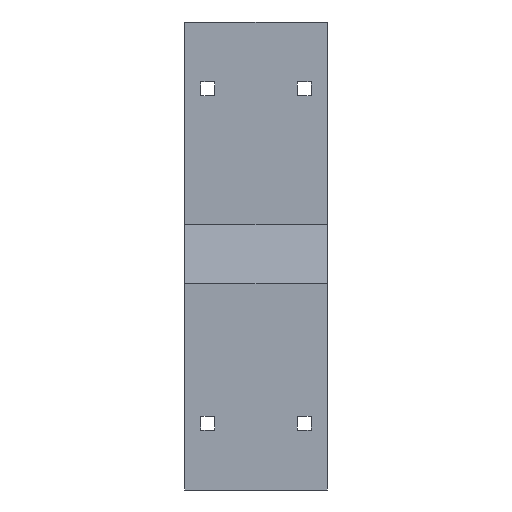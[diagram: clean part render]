
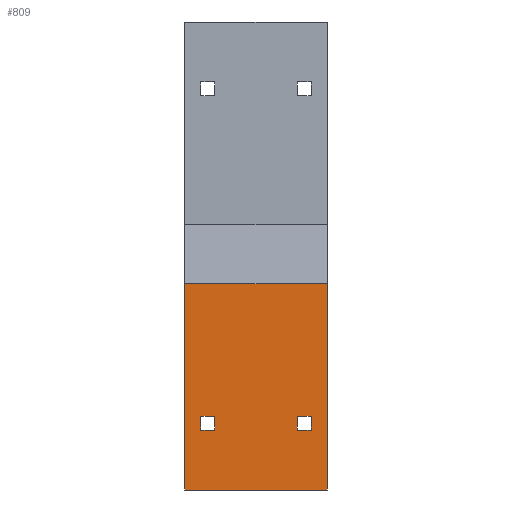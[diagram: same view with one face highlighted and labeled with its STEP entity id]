
A CAD part, left-side view. The second image highlights one B-rep face of the part: STEP entity #809.
In plain terms, the highlighted planar face has unit normal (-1, 0, 0).
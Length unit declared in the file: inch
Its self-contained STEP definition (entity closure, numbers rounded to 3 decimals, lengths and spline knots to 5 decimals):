
#65=DIRECTION('',(0.,0.,-1.));
#66=VECTOR('',#65,6.05196);
#67=CARTESIAN_POINT('',(-3.09,4.175,-7.68009));
#68=LINE('',#67,#66);
#113=DIRECTION('',(0.,1.,0.));
#114=VECTOR('',#113,4.175);
#115=CARTESIAN_POINT('',(-3.09,0.,-13.73205));
#116=LINE('',#115,#114);
#137=DIRECTION('',(0.,1.,0.));
#138=VECTOR('',#137,4.175);
#139=CARTESIAN_POINT('',(-3.09,0.,-7.68009));
#140=LINE('',#139,#138);
#141=DIRECTION('',(0.,0.,-1.));
#142=VECTOR('',#141,6.05196);
#143=CARTESIAN_POINT('',(-3.09,0.,-7.68009));
#144=LINE('',#143,#142);
#145=DIRECTION('',(0.,-1.,0.));
#146=VECTOR('',#145,0.41);
#147=CARTESIAN_POINT('',(-3.09,0.875,-11.97705));
#148=LINE('',#147,#146);
#149=DIRECTION('',(0.,0.,1.));
#150=VECTOR('',#149,0.41);
#151=CARTESIAN_POINT('',(-3.09,0.465,-11.97705));
#152=LINE('',#151,#150);
#153=DIRECTION('',(0.,1.,0.));
#154=VECTOR('',#153,0.41);
#155=CARTESIAN_POINT('',(-3.09,0.465,-11.56705));
#156=LINE('',#155,#154);
#157=DIRECTION('',(0.,0.,-1.));
#158=VECTOR('',#157,0.41);
#159=CARTESIAN_POINT('',(-3.09,0.875,-11.56705));
#160=LINE('',#159,#158);
#161=DIRECTION('',(0.,0.,1.));
#162=VECTOR('',#161,0.41);
#163=CARTESIAN_POINT('',(-3.09,3.3,-11.97705));
#164=LINE('',#163,#162);
#165=DIRECTION('',(0.,1.,0.));
#166=VECTOR('',#165,0.41);
#167=CARTESIAN_POINT('',(-3.09,3.3,-11.56705));
#168=LINE('',#167,#166);
#169=DIRECTION('',(0.,0.,-1.));
#170=VECTOR('',#169,0.41);
#171=CARTESIAN_POINT('',(-3.09,3.71,-11.56705));
#172=LINE('',#171,#170);
#173=DIRECTION('',(0.,-1.,0.));
#174=VECTOR('',#173,0.41);
#175=CARTESIAN_POINT('',(-3.09,3.71,-11.97705));
#176=LINE('',#175,#174);
#469=CARTESIAN_POINT('',(-3.09,0.,-7.68009));
#470=CARTESIAN_POINT('',(-3.09,4.175,-7.68009));
#471=VERTEX_POINT('',#469);
#472=VERTEX_POINT('',#470);
#485=CARTESIAN_POINT('',(-3.09,0.,-13.73205));
#486=VERTEX_POINT('',#485);
#487=CARTESIAN_POINT('',(-3.09,4.175,-13.73205));
#488=VERTEX_POINT('',#487);
#542=CARTESIAN_POINT('',(-3.09,0.875,-11.97705));
#544=VERTEX_POINT('',#542);
#546=CARTESIAN_POINT('',(-3.09,0.465,-11.97705));
#548=VERTEX_POINT('',#546);
#550=CARTESIAN_POINT('',(-3.09,0.465,-11.56705));
#552=VERTEX_POINT('',#550);
#554=CARTESIAN_POINT('',(-3.09,0.875,-11.56705));
#556=VERTEX_POINT('',#554);
#558=CARTESIAN_POINT('',(-3.09,3.3,-11.97705));
#560=VERTEX_POINT('',#558);
#562=CARTESIAN_POINT('',(-3.09,3.3,-11.56705));
#564=VERTEX_POINT('',#562);
#566=CARTESIAN_POINT('',(-3.09,3.71,-11.56705));
#568=VERTEX_POINT('',#566);
#570=CARTESIAN_POINT('',(-3.09,3.71,-11.97705));
#572=VERTEX_POINT('',#570);
#776=CARTESIAN_POINT('',(-3.09,0.,-7.73205));
#777=DIRECTION('',(-1.,0.,0.));
#778=DIRECTION('',(0.,1.,0.));
#779=AXIS2_PLACEMENT_3D('',#776,#777,#778);
#780=PLANE('',#779);
#782=ORIENTED_EDGE('',*,*,#781,.F.);
#784=ORIENTED_EDGE('',*,*,#783,.T.);
#785=ORIENTED_EDGE('',*,*,#762,.T.);
#786=ORIENTED_EDGE('',*,*,#657,.F.);
#787=EDGE_LOOP('',(#782,#784,#785,#786));
#788=FACE_OUTER_BOUND('',#787,.F.);
#790=ORIENTED_EDGE('',*,*,#789,.T.);
#792=ORIENTED_EDGE('',*,*,#791,.T.);
#794=ORIENTED_EDGE('',*,*,#793,.T.);
#796=ORIENTED_EDGE('',*,*,#795,.T.);
#797=EDGE_LOOP('',(#790,#792,#794,#796));
#798=FACE_BOUND('',#797,.F.);
#800=ORIENTED_EDGE('',*,*,#799,.T.);
#802=ORIENTED_EDGE('',*,*,#801,.T.);
#804=ORIENTED_EDGE('',*,*,#803,.T.);
#806=ORIENTED_EDGE('',*,*,#805,.T.);
#807=EDGE_LOOP('',(#800,#802,#804,#806));
#808=FACE_BOUND('',#807,.F.);
#809=ADVANCED_FACE('',(#788,#798,#808),#780,.T.);
#657=EDGE_CURVE('',#472,#488,#68,.T.);
#762=EDGE_CURVE('',#486,#488,#116,.T.);
#781=EDGE_CURVE('',#471,#472,#140,.T.);
#783=EDGE_CURVE('',#471,#486,#144,.T.);
#789=EDGE_CURVE('',#544,#548,#148,.T.);
#791=EDGE_CURVE('',#548,#552,#152,.T.);
#793=EDGE_CURVE('',#552,#556,#156,.T.);
#795=EDGE_CURVE('',#556,#544,#160,.T.);
#799=EDGE_CURVE('',#560,#564,#164,.T.);
#801=EDGE_CURVE('',#564,#568,#168,.T.);
#803=EDGE_CURVE('',#568,#572,#172,.T.);
#805=EDGE_CURVE('',#572,#560,#176,.T.);
